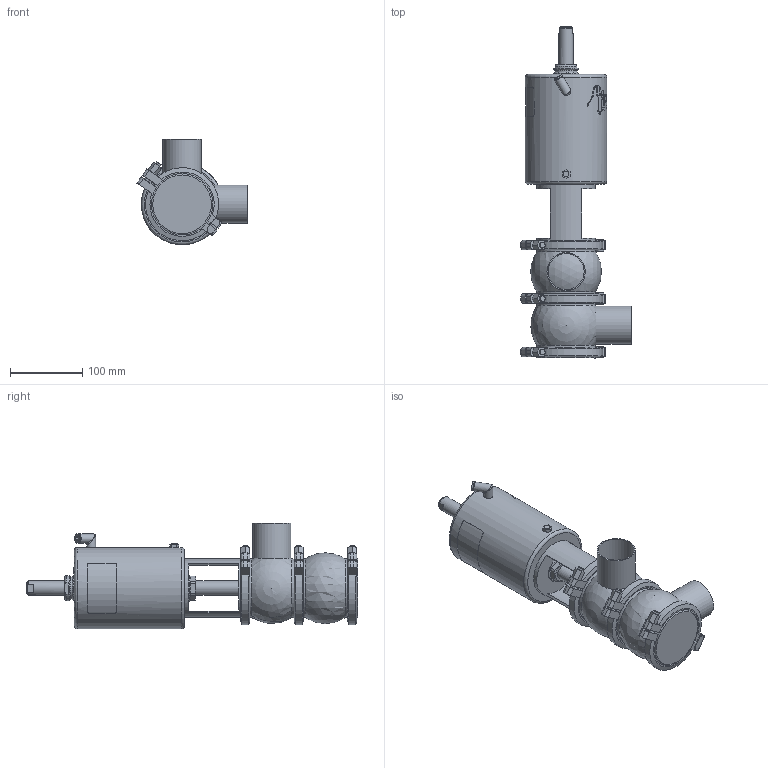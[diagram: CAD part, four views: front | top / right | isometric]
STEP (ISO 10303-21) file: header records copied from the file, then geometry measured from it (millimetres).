
FILE_DESCRIPTION (( 'STEP AP214' ), '1' );
FILE_NAME ('INNOVA M D W DIN 050 T2 AS NC_10.241.16.0010.STEP', '2024-08-07T07:55:48', ( '' ), ( '' ), 'SwSTEP 2.0', 'SolidWorks 2023', '' );
FILE_SCHEMA (( 'AUTOMOTIVE_DESIGN' ));
Length unit declared in the file: millimetre
Products named in the file (6): INNOVA M D W DIN 050 T2 AS NC_10.241.16.0010; 10.241.15.0001_DIN 050; 10.240.15.0010_DN 050; 10.240.15.0014_T2 AS P180; 10.240.15.0001_DN 050; 10.240.15.0006_DIN 050
Assembly tree (8 placements, depth 2):
  INNOVA M D W DIN 050 T2 AS NC_10.241.16.0010
    10.240.15.0006_DIN 050  x2
    10.240.15.0010_DN 050
    10.240.15.0014_T2 AS P180
    10.240.15.0001_DN 050  x3
    10.241.15.0001_DIN 050
Bounding box: 152.59 x 459.27 x 146.25 mm (x, y, z)
Volume: 2790103.4 mm3; surface area: 297183.9 mm2
Topology: 9 solids, 9 shells, 459 faces, 1211 edges, 789 vertices
Faces by surface type: plane 225, cylinder 110, bspline 80, cone 36, sphere 4, torus 4
Full cylindrical faces by diameter (mm): 6.15 x1, 8 x7, 8.5 x1, 10.5 x1, 12.5 x3, 16 x1, 20 x2, 31 x1, 34.5 x2, 36.5 x1, 50 x2, 53 x2, 81 x6, 93 x6, 112.5 x1
Entity records: 20371 total; most frequent: CARTESIAN_POINT 11262, ORIENTED_EDGE 1592, DIRECTION 1205, EDGE_CURVE 796, VERTEX_POINT 547, AXIS2_PLACEMENT_3D 458, EDGE_LOOP 399, FACE_OUTER_BOUND 360
